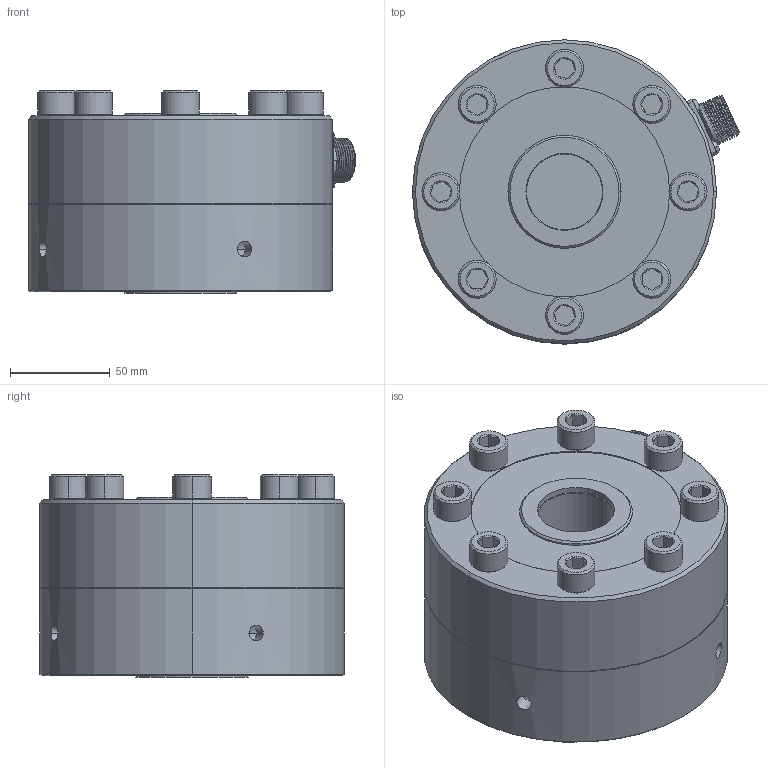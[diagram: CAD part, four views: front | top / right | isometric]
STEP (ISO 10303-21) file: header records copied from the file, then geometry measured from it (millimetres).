
FILE_DESCRIPTION (( 'STEP AP203' ), '1' );
FILE_NAME ('INTERFACE 2450-20K THRU 50K-B.STEP', '2012-01-11T19:05:03', ( ' ' ), ( '' ), 'SwSTEP 2.0', 'SolidWorks 2002349', '' );
FILE_SCHEMA (( 'CONFIG_CONTROL_DESIGN' ));
Length unit declared in the file: inch
Products named in the file (1): INTERFACE 2450-20K THRU 50K-B
Bounding box: 163.95 x 152.4 x 101.6 mm (x, y, z)
Volume: 1542785.9 mm3; surface area: 100726.3 mm2
Topology: 1 solids, 1 shells, 328 faces, 709 edges, 416 vertices
Faces by surface type: plane 126, cone 112, cylinder 75, bspline 15
Entity records: 14322 total; most frequent: CARTESIAN_POINT 7417, ORIENTED_EDGE 1402, DIRECTION 1386, EDGE_CURVE 701, AXIS2_PLACEMENT_3D 531, VERTEX_POINT 416, EDGE_LOOP 369, ADVANCED_FACE 328
